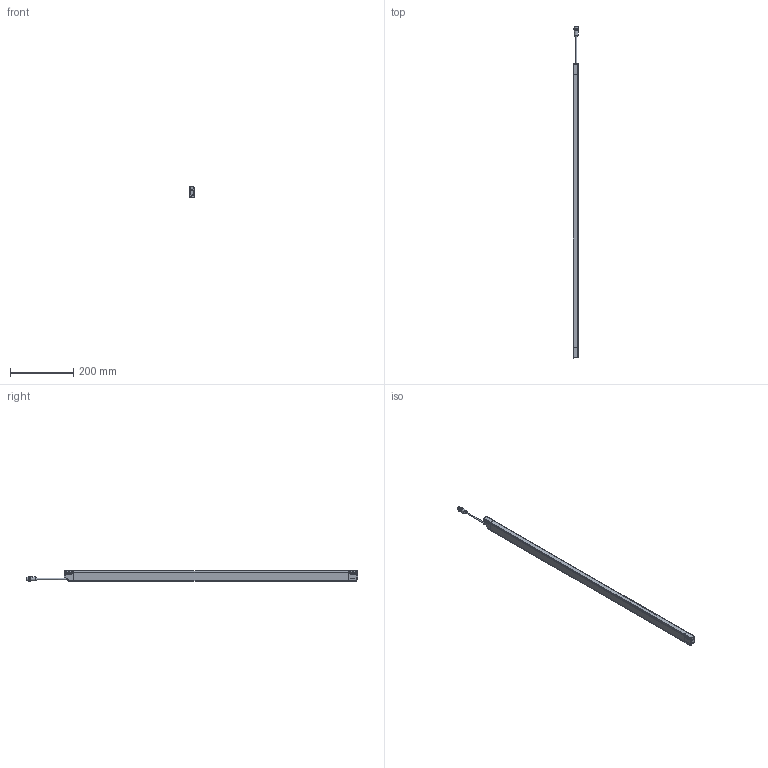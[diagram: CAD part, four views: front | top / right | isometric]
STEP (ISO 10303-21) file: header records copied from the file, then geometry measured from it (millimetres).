
FILE_DESCRIPTION(/* description */ (''),/* implementation_level */ '2;1');
FILE_NAME(/* name */ 'DSD-0646_SLx-xx-0930 _stp.stp',/* time_stamp */ '2017-12-05T14:32:24+01:00',/* author */ ('CC2'),/* organization */ ('Leuze electronic'),/* preprocessor_version */ 'ST-DEVELOPER v16',/* originating_system */ 'SIEMENS PLM Software NX 11.0',/* authorisation */ '');
FILE_SCHEMA (('AUTOMOTIVE_DESIGN { 1 0 10303 214 3 1 1 1 }'));
Length unit declared in the file: millimetre
Products named in the file (1): DSD-0646_SLx-xx-0930 _stp
Bounding box: 17.36 x 1050.24 x 33.46 mm (x, y, z)
Surface area: 115218.2 mm2 (no closed solid volume)
Topology: 0 solids, 432 shells, 1050 faces, 4446 edges, 3751 vertices
Faces by surface type: cylinder 395, plane 307, bspline 136, torus 112, sphere 67, cone 33
Full cylindrical faces by diameter (mm): 1 x5, 1.2 x2, 2.6 x6, 4 x1, 8.3 x1, 9.4 x1, 10.4 x1, 12 x1, 13 x1, 13.5 x1, 14.5 x2
Entity records: 58726 total; most frequent: CARTESIAN_POINT 24585, ORIENTED_EDGE 5610, DIRECTION 5094, EDGE_CURVE 4314, VERTEX_POINT 3716, AXIS2_PLACEMENT_3D 1963, B_SPLINE_CURVE_WITH_KNOTS 1841, LINE 1168
